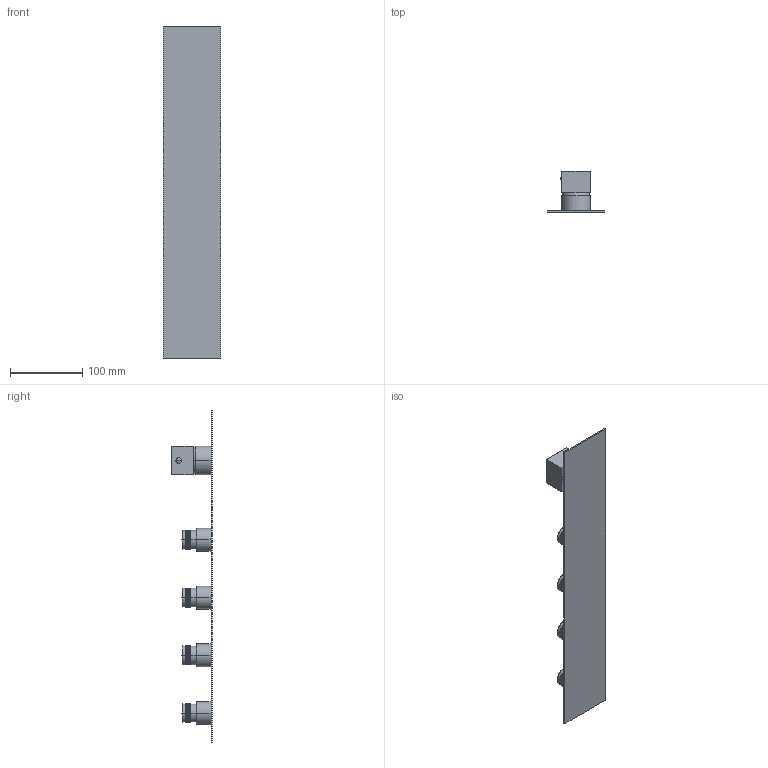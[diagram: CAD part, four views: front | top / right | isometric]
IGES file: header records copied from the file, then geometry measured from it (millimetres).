
Start section:  PTC IGES file: 35000v4.igs
Global section: file name: 35000v4.igs; native system: Creo Parametric by PTC Inc.; preprocessor: 2022014; author: carloff; organization: Unknown; date: 20260305.115227; units: millimetre
Bounding box: 80 x 56.7 x 460 mm (x, y, z)
Surface area: 99880.3 mm2 (no closed solid volume)
Topology: 0 solids, 0 shells, 6795 faces, 32994 edges, 32984 vertices
Faces by surface type: bspline 5377, revolution 1418
